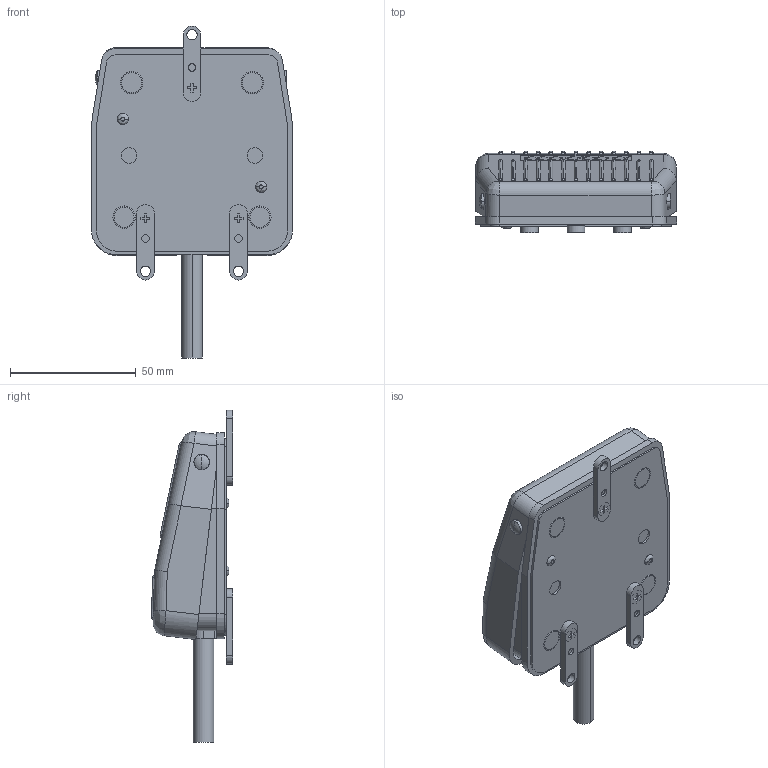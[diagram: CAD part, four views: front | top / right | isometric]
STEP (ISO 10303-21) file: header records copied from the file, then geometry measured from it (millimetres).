
FILE_DESCRIPTION((''),'2;1');
FILE_NAME('TFS-202','2016-08-24T',('ABS'),(''),'PRO/ENGINEER BY PARAMETRIC TECHNOLOGY CORPORATION, 2012360','PRO/ENGINEER BY PARAMETRIC TECHNOLOGY CORPORATION, 2012360','');
FILE_SCHEMA(('CONFIG_CONTROL_DESIGN'));
Length unit declared in the file: millimetre
Products named in the file (1): TFS-202
Bounding box: 80 x 32.34 x 132 mm (x, y, z)
Volume: 126634.3 mm3; surface area: 41727.1 mm2
Topology: 1 solids, 6 shells, 776 faces, 2027 edges, 1315 vertices
Faces by surface type: plane 384, cylinder 258, bspline 89, torus 20, cone 17, extrusion 4, sphere 4
Entity records: 27716 total; most frequent: CARTESIAN_POINT 8659, ORIENTED_EDGE 4042, DIRECTION 3870, EDGE_CURVE 2021, AXIS2_PLACEMENT_3D 1348, VERTEX_POINT 1313, VECTOR 1174, LINE 1170
